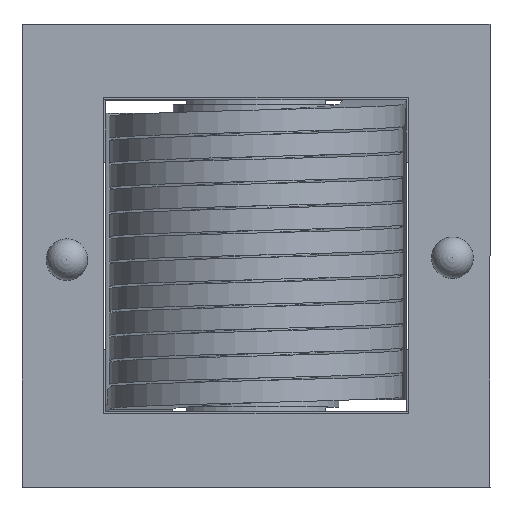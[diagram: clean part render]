
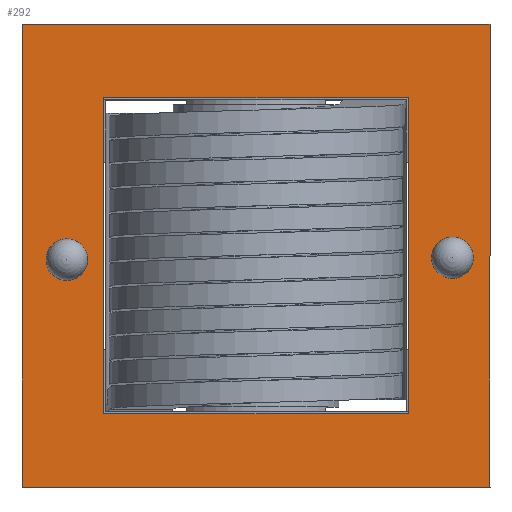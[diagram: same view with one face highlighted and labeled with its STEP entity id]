
A CAD part, top view. The second image highlights one B-rep face of the part: STEP entity #292.
In plain terms, the highlighted planar face has unit normal (0, 0, 1).
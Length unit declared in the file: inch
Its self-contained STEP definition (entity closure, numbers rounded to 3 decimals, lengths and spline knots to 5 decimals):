
#25 = CARTESIAN_POINT ( 'NONE',  ( 0.0512, -0.03141, 0.75821 ) ) ;
#83 = EDGE_CURVE ( 'NONE', #6862, #1848, #4228, .T. ) ;
#96 = VERTEX_POINT ( 'NONE', #2627 ) ;
#155 = LINE ( 'NONE', #1940, #4732 ) ;
#163 = EDGE_CURVE ( 'NONE', #5978, #6060, #602, .T. ) ;
#191 = FACE_BOUND ( 'NONE', #1835, .T. ) ;
#232 = EDGE_CURVE ( 'NONE', #1689, #4968, #4258, .T. ) ;
#292 = ADVANCED_FACE ( 'NONE', ( #191, #7250, #1934, #7342 ), #3464, .F. ) ;
#316 = CARTESIAN_POINT ( 'NONE',  ( 0.61555, 0.73489, 0.75821 ) ) ;
#363 = EDGE_CURVE ( 'NONE', #6060, #1689, #2810, .T. ) ;
#527 = CARTESIAN_POINT ( 'NONE',  ( 1.87612, -0.02263, 0.75821 ) ) ;
#537 = ORIENTED_EDGE ( 'NONE', *, *, #668, .T. ) ;
#565 = CARTESIAN_POINT ( 'NONE',  ( 0.22559, -0.76117, 0.75821 ) ) ;
#594 = CARTESIAN_POINT ( 'NONE',  ( 2.05374, 1.0719, 0.75821 ) ) ;
#595 = VECTOR ( 'NONE', #3510, 39.37008 ) ;
#602 = LINE ( 'NONE', #316, #4423 ) ;
#668 = EDGE_CURVE ( 'NONE', #2094, #6267, #7109, .T. ) ;
#694 = EDGE_CURVE ( 'NONE', #1878, #7138, #7475, .T. ) ;
#705 = DIRECTION ( 'NONE',  ( -1., 0., 0. ) ) ;
#724 = CARTESIAN_POINT ( 'NONE',  ( 0.14962, -0.03141, 0.75821 ) ) ;
#887 = CARTESIAN_POINT ( 'NONE',  ( 0.22559, 0.73489, 0.75821 ) ) ;
#996 = LINE ( 'NONE', #1728, #4341 ) ;
#1021 = ORIENTED_EDGE ( 'NONE', *, *, #1971, .T. ) ;
#1085 = CARTESIAN_POINT ( 'NONE',  ( 1.66697, -0.4559, 0.75821 ) ) ;
#1113 = DIRECTION ( 'NONE',  ( 0., 1., 0. ) ) ;
#1123 = DIRECTION ( 'NONE',  ( -1., 0., 0. ) ) ;
#1161 = CARTESIAN_POINT ( 'NONE',  ( -0.16122, 1.08174, 0.75821 ) ) ;
#1169 = LINE ( 'NONE', #594, #6389 ) ;
#1185 = VERTEX_POINT ( 'NONE', #7629 ) ;
#1217 = VECTOR ( 'NONE', #7471, 39.37008 ) ;
#1225 = EDGE_CURVE ( 'NONE', #1185, #2094, #996, .T. ) ;
#1249 = DIRECTION ( 'NONE',  ( 0., -1., 0. ) ) ;
#1428 = CIRCLE ( 'NONE', #5331, 0.09843 ) ;
#1620 = CARTESIAN_POINT ( 'NONE',  ( 2.05374, 1.08174, 0.75821 ) ) ;
#1688 = DIRECTION ( 'NONE',  ( -1., 0., 0. ) ) ;
#1689 = VERTEX_POINT ( 'NONE', #2076 ) ;
#1728 = CARTESIAN_POINT ( 'NONE',  ( 1.27697, -0.76117, 0.75821 ) ) ;
#1771 = EDGE_LOOP ( 'NONE', ( #5653, #4650 ) ) ;
#1785 = AXIS2_PLACEMENT_3D ( 'NONE', #25, #4260, #705 ) ;
#1803 = CARTESIAN_POINT ( 'NONE',  ( 1.66693, 0.73489, 0.75821 ) ) ;
#1835 = EDGE_LOOP ( 'NONE', ( #2111, #4513 ) ) ;
#1845 = CARTESIAN_POINT ( 'NONE',  ( 0.22556, -0.4559, 0.75821 ) ) ;
#1848 = VERTEX_POINT ( 'NONE', #1620 ) ;
#1878 = VERTEX_POINT ( 'NONE', #5257 ) ;
#1924 = CARTESIAN_POINT ( 'NONE',  ( 1.77769, -0.02263, 0.75821 ) ) ;
#1934 = FACE_OUTER_BOUND ( 'NONE', #2576, .T. ) ;
#1940 = CARTESIAN_POINT ( 'NONE',  ( -0.16122, 1.0719, 0.75821 ) ) ;
#1964 = CARTESIAN_POINT ( 'NONE',  ( -0.16122, -1.10802, 0.75821 ) ) ;
#1971 = EDGE_CURVE ( 'NONE', #6267, #5145, #2648, .T. ) ;
#2076 = CARTESIAN_POINT ( 'NONE',  ( 1.66697, 0.42961, 0.75821 ) ) ;
#2094 = VERTEX_POINT ( 'NONE', #2329 ) ;
#2111 = ORIENTED_EDGE ( 'NONE', *, *, #5182, .F. ) ;
#2210 = CARTESIAN_POINT ( 'NONE',  ( 1.66697, -0.4559, 0.75821 ) ) ;
#2253 = EDGE_CURVE ( 'NONE', #96, #5455, #6723, .T. ) ;
#2270 = CARTESIAN_POINT ( 'NONE',  ( 1.667, -0.16073, 0.75821 ) ) ;
#2299 = DIRECTION ( 'NONE',  ( -1., 0., 0. ) ) ;
#2318 = CARTESIAN_POINT ( 'NONE',  ( 1.97454, -0.02263, 0.75821 ) ) ;
#2329 = CARTESIAN_POINT ( 'NONE',  ( 0.22556, -0.76117, 0.75821 ) ) ;
#2547 = EDGE_CURVE ( 'NONE', #5145, #5978, #3818, .T. ) ;
#2576 = EDGE_LOOP ( 'NONE', ( #7509, #6592, #6627, #7129 ) ) ;
#2627 = CARTESIAN_POINT ( 'NONE',  ( -0.04723, -0.03141, 0.75821 ) ) ;
#2648 = B_SPLINE_CURVE_WITH_KNOTS ( 'NONE', 3,
 ( #1845, #7369, #6182, #5067 ),
 .UNSPECIFIED., .F., .F.,
 ( 4, 4 ),
 ( 0.20405, 0.79595 ),
 .UNSPECIFIED. ) ;
#2660 = DIRECTION ( 'NONE',  ( -1., 0., 0. ) ) ;
#2775 = CARTESIAN_POINT ( 'NONE',  ( 0.22556, 0.73489, 0.75821 ) ) ;
#2788 = ORIENTED_EDGE ( 'NONE', *, *, #163, .T. ) ;
#2796 = VECTOR ( 'NONE', #5021, 39.37008 ) ;
#2810 = LINE ( 'NONE', #1803, #5802 ) ;
#2876 = VERTEX_POINT ( 'NONE', #2318 ) ;
#2923 = DIRECTION ( 'NONE',  ( 0., 0., 1. ) ) ;
#2990 = CARTESIAN_POINT ( 'NONE',  ( 0.22556, 0.42961, 0.75821 ) ) ;
#3289 = DIRECTION ( 'NONE',  ( 1., 0., 0. ) ) ;
#3314 = DIRECTION ( 'NONE',  ( 1., 0., 0. ) ) ;
#3323 = AXIS2_PLACEMENT_3D ( 'NONE', #7693, #2923, #1123 ) ;
#3340 = AXIS2_PLACEMENT_3D ( 'NONE', #3487, #6987, #2299 ) ;
#3419 = CARTESIAN_POINT ( 'NONE',  ( 0.0512, -0.03141, 0.75821 ) ) ;
#3443 = CIRCLE ( 'NONE', #3859, 0.09843 ) ;
#3464 = PLANE ( 'NONE',  #3340 ) ;
#3487 = CARTESIAN_POINT ( 'NONE',  ( 0.94626, -0.01314, 0.75821 ) ) ;
#3510 = DIRECTION ( 'NONE',  ( -1., 0., 0. ) ) ;
#3594 = CARTESIAN_POINT ( 'NONE',  ( 0.22556, -0.4559, 0.75821 ) ) ;
#3818 = LINE ( 'NONE', #887, #1217 ) ;
#3858 = CARTESIAN_POINT ( 'NONE',  ( 1.66693, -0.76117, 0.75821 ) ) ;
#3859 = AXIS2_PLACEMENT_3D ( 'NONE', #527, #7113, #1688 ) ;
#4023 = DIRECTION ( 'NONE',  ( 0., 0., 1. ) ) ;
#4100 = CARTESIAN_POINT ( 'NONE',  ( 2.0439, -1.10802, 0.75821 ) ) ;
#4228 = LINE ( 'NONE', #6860, #6373 ) ;
#4258 = B_SPLINE_CURVE_WITH_KNOTS ( 'NONE', 3,
 ( #6957, #7578, #2270, #1085 ),
 .UNSPECIFIED., .F., .F.,
 ( 4, 4 ),
 ( 0.20405, 0.79595 ),
 .UNSPECIFIED. ) ;
#4260 = DIRECTION ( 'NONE',  ( 0., 0., 1. ) ) ;
#4318 = VECTOR ( 'NONE', #1113, 39.37008 ) ;
#4341 = VECTOR ( 'NONE', #5926, 39.37008 ) ;
#4392 = LINE ( 'NONE', #3858, #2796 ) ;
#4423 = VECTOR ( 'NONE', #3314, 39.37008 ) ;
#4428 = VERTEX_POINT ( 'NONE', #1924 ) ;
#4513 = ORIENTED_EDGE ( 'NONE', *, *, #6023, .F. ) ;
#4609 = ORIENTED_EDGE ( 'NONE', *, *, #4717, .T. ) ;
#4650 = ORIENTED_EDGE ( 'NONE', *, *, #7640, .F. ) ;
#4717 = EDGE_CURVE ( 'NONE', #4968, #1185, #4392, .T. ) ;
#4732 = VECTOR ( 'NONE', #6032, 39.37008 ) ;
#4968 = VERTEX_POINT ( 'NONE', #2210 ) ;
#5021 = DIRECTION ( 'NONE',  ( 0., -1., 0. ) ) ;
#5067 = CARTESIAN_POINT ( 'NONE',  ( 0.22556, 0.42961, 0.75821 ) ) ;
#5145 = VERTEX_POINT ( 'NONE', #2990 ) ;
#5182 = EDGE_CURVE ( 'NONE', #4428, #2876, #3443, .T. ) ;
#5257 = CARTESIAN_POINT ( 'NONE',  ( 2.05374, -1.10802, 0.75821 ) ) ;
#5331 = AXIS2_PLACEMENT_3D ( 'NONE', #3419, #4023, #2660 ) ;
#5455 = VERTEX_POINT ( 'NONE', #724 ) ;
#5560 = ORIENTED_EDGE ( 'NONE', *, *, #232, .T. ) ;
#5576 = ORIENTED_EDGE ( 'NONE', *, *, #1225, .T. ) ;
#5602 = EDGE_LOOP ( 'NONE', ( #5576, #537, #1021, #7187, #2788, #6251, #5560, #4609 ) ) ;
#5653 = ORIENTED_EDGE ( 'NONE', *, *, #2253, .F. ) ;
#5802 = VECTOR ( 'NONE', #6541, 39.37008 ) ;
#5926 = DIRECTION ( 'NONE',  ( -1., 0., 0. ) ) ;
#5978 = VERTEX_POINT ( 'NONE', #2775 ) ;
#6023 = EDGE_CURVE ( 'NONE', #2876, #4428, #7703, .T. ) ;
#6032 = DIRECTION ( 'NONE',  ( 0., 1., 0. ) ) ;
#6060 = VERTEX_POINT ( 'NONE', #7095 ) ;
#6182 = CARTESIAN_POINT ( 'NONE',  ( 0.22552, 0.13444, 0.75821 ) ) ;
#6251 = ORIENTED_EDGE ( 'NONE', *, *, #363, .T. ) ;
#6267 = VERTEX_POINT ( 'NONE', #3594 ) ;
#6373 = VECTOR ( 'NONE', #3289, 39.37008 ) ;
#6389 = VECTOR ( 'NONE', #1249, 39.37008 ) ;
#6541 = DIRECTION ( 'NONE',  ( 0., -1., 0. ) ) ;
#6592 = ORIENTED_EDGE ( 'NONE', *, *, #694, .F. ) ;
#6627 = ORIENTED_EDGE ( 'NONE', *, *, #6914, .F. ) ;
#6723 = CIRCLE ( 'NONE', #1785, 0.09843 ) ;
#6860 = CARTESIAN_POINT ( 'NONE',  ( 2.0439, 1.08174, 0.75821 ) ) ;
#6862 = VERTEX_POINT ( 'NONE', #1161 ) ;
#6914 = EDGE_CURVE ( 'NONE', #1848, #1878, #1169, .T. ) ;
#6957 = CARTESIAN_POINT ( 'NONE',  ( 1.66697, 0.42961, 0.75821 ) ) ;
#6987 = DIRECTION ( 'NONE',  ( 0., 0., -1. ) ) ;
#7095 = CARTESIAN_POINT ( 'NONE',  ( 1.66697, 0.73489, 0.75821 ) ) ;
#7109 = LINE ( 'NONE', #565, #4318 ) ;
#7113 = DIRECTION ( 'NONE',  ( 0., 0., 1. ) ) ;
#7122 = EDGE_CURVE ( 'NONE', #7138, #6862, #155, .T. ) ;
#7129 = ORIENTED_EDGE ( 'NONE', *, *, #83, .F. ) ;
#7138 = VERTEX_POINT ( 'NONE', #1964 ) ;
#7187 = ORIENTED_EDGE ( 'NONE', *, *, #2547, .T. ) ;
#7250 = FACE_BOUND ( 'NONE', #1771, .T. ) ;
#7342 = FACE_BOUND ( 'NONE', #5602, .T. ) ;
#7369 = CARTESIAN_POINT ( 'NONE',  ( 0.22552, -0.16073, 0.75821 ) ) ;
#7471 = DIRECTION ( 'NONE',  ( 0., 1., 0. ) ) ;
#7475 = LINE ( 'NONE', #4100, #595 ) ;
#7509 = ORIENTED_EDGE ( 'NONE', *, *, #7122, .F. ) ;
#7578 = CARTESIAN_POINT ( 'NONE',  ( 1.667, 0.13444, 0.75821 ) ) ;
#7629 = CARTESIAN_POINT ( 'NONE',  ( 1.66697, -0.76117, 0.75821 ) ) ;
#7640 = EDGE_CURVE ( 'NONE', #5455, #96, #1428, .T. ) ;
#7693 = CARTESIAN_POINT ( 'NONE',  ( 1.87612, -0.02263, 0.75821 ) ) ;
#7703 = CIRCLE ( 'NONE', #3323, 0.09843 ) ;
